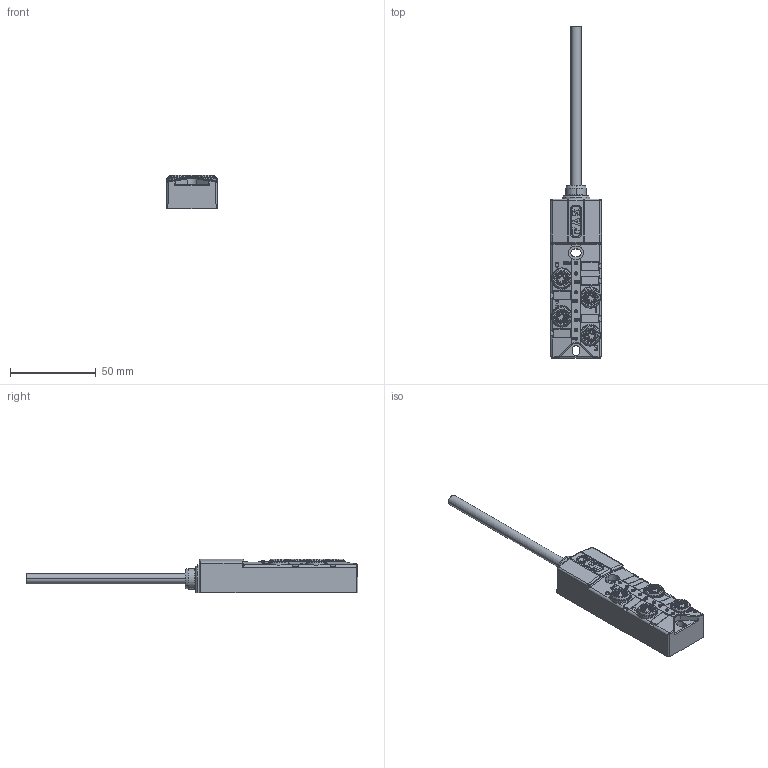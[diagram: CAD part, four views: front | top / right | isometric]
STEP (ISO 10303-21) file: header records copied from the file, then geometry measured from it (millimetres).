
FILE_DESCRIPTION (( 'STEP AP203' ), '1' );
FILE_NAME ('23P441.STEP', '2020-05-14T06:04:34', ( '' ), ( '' ), 'SwSTEP 2.0', 'SolidWorks 2016', '' );
FILE_SCHEMA (( 'CONFIG_CONTROL_DESIGN' ));
Products named in the file (1): 23P441
Bounding box: 29.94 x 193.22 x 19.75 mm (x, y, z)
Volume: 43190.6 mm3; surface area: 20336 mm2
Topology: 12 solids, 28 shells, 2270 faces, 6361 edges, 4173 vertices
Faces by surface type: plane 1077, cylinder 539, cone 405, bspline 215, torus 30, sphere 4
Entity records: 193114 total; most frequent: CARTESIAN_POINT 136761, ORIENTED_EDGE 12702, DIRECTION 10555, EDGE_CURVE 6351, VERTEX_POINT 4169, LINE 3599, VECTOR 3599, AXIS2_PLACEMENT_3D 3478
